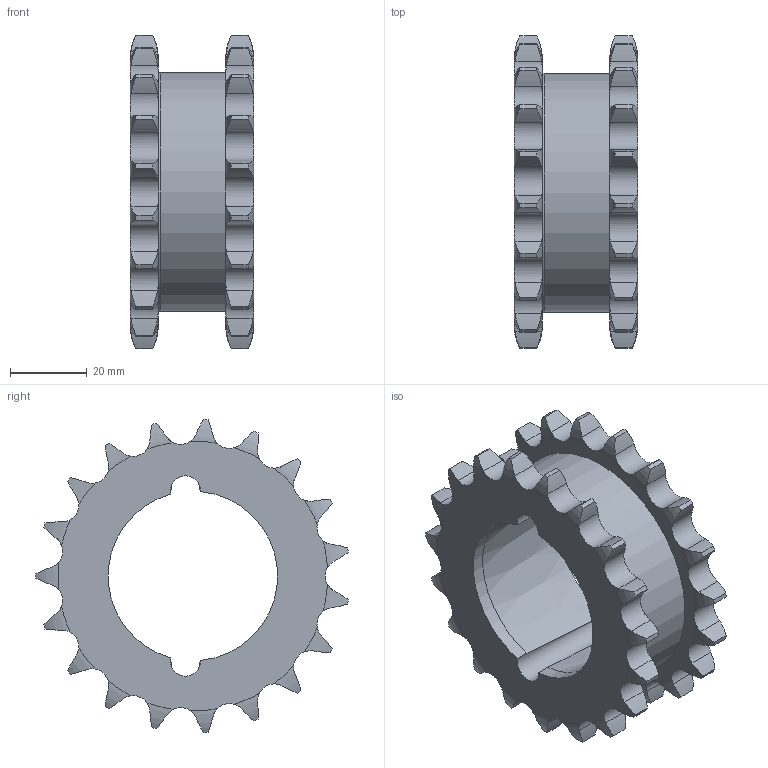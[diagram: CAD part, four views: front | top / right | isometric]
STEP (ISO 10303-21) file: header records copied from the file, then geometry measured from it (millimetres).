
FILE_DESCRIPTION(/* description */ (''),/* implementation_level */ '2;1');
FILE_NAME(/* name */ 'C:\Users\stagistaCAD\Desktop\27212019.stp',/* time_stamp */ '2018-06-25T09:02:02+02:00',/* author */ ('stagistacad'),/* organization */ (''),/* preprocessor_version */ 'ST-DEVELOPER v15.6',/* originating_system */ 'Autodesk Inventor 2015',/* authorisation */ '');
FILE_SCHEMA (('AUTOMOTIVE_DESIGN { 1 0 10303 214 3 1 1 }'));
Length unit declared in the file: millimetre
Products named in the file (1): 27212019
Bounding box: 32 x 81.18 x 81.46 mm (x, y, z)
Volume: 58821.4 mm3; surface area: 20547.4 mm2
Topology: 1 solids, 1 shells, 242 faces, 751 edges, 513 vertices
Faces by surface type: cylinder 158, torus 77, plane 4, cone 3
Full cylindrical faces by diameter (mm): 62 x1
Entity records: 9448 total; most frequent: CARTESIAN_POINT 3158, ORIENTED_EDGE 1498, DIRECTION 1130, EDGE_CURVE 749, VERTEX_POINT 513, AXIS2_PLACEMENT_3D 487, B_SPLINE_CURVE_WITH_KNOTS 349, EDGE_LOOP 248
